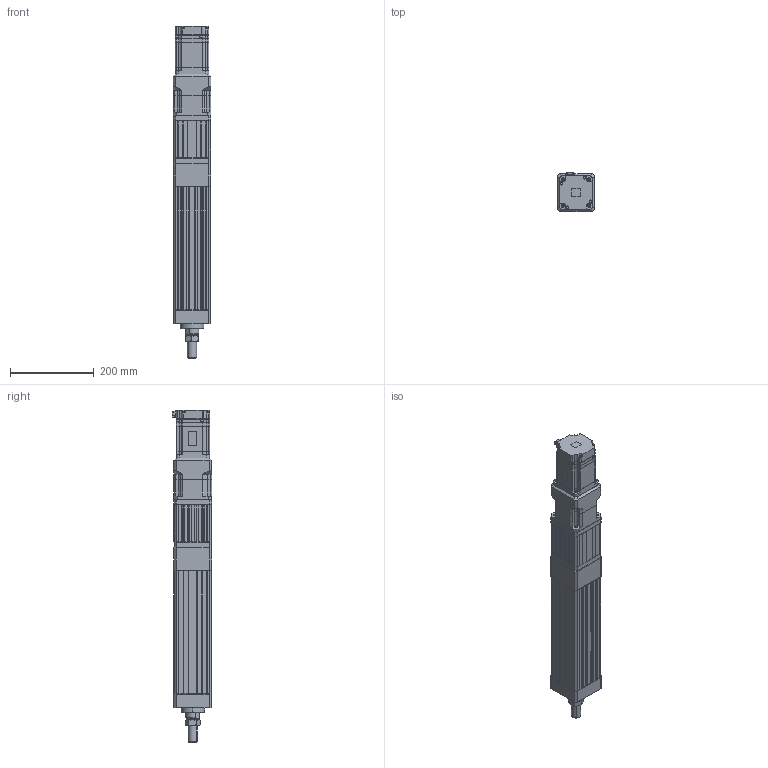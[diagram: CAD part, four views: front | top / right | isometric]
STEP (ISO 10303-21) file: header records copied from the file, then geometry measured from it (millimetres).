
FILE_DESCRIPTION (( 'STEP AP203' ), '1' );
FILE_NAME ('ANS090H-S150-05(10)(25)-W75G05-M.STEP', '2019-03-16T06:52:31', ( 'user' ), ( '' ), 'SwSTEP 2.0', 'SolidWorks 2013', '' );
FILE_SCHEMA (( 'CONFIG_CONTROL_DESIGN' ));
Length unit declared in the file: millimetre
Products named in the file (6): SGMJV_08A_A21; AB090-005-S1-P2[YASKAWA SGMJV08A]; ANS090H-S150-05(10)(25)-W75G05-M; ANS090H S150 VER2; HEXNUT-M22X1.5P; ANS090 ROD ST150-M
Assembly tree (5 placements, depth 2):
  ANS090H-S150-05(10)(25)-W75G05-M
    ANS090H S150 VER2
    HEXNUT-M22X1.5P
    ANS090 ROD ST150-M
    SGMJV_08A_A21
    AB090-005-S1-P2[YASKAWA SGMJV08A]
Bounding box: 90 x 93.8 x 794.1 mm (x, y, z)
Volume: 2922181.5 mm3; surface area: 534081.3 mm2
Topology: 4 solids, 11 shells, 1615 faces, 4344 edges, 2802 vertices
Faces by surface type: plane 986, cylinder 481, cone 136, bspline 12
Entity records: 51143 total; most frequent: CARTESIAN_POINT 9819, ORIENTED_EDGE 8552, DIRECTION 8387, EDGE_CURVE 4320, VECTOR 3095, LINE 3095, VERTEX_POINT 2802, AXIS2_PLACEMENT_3D 2646
